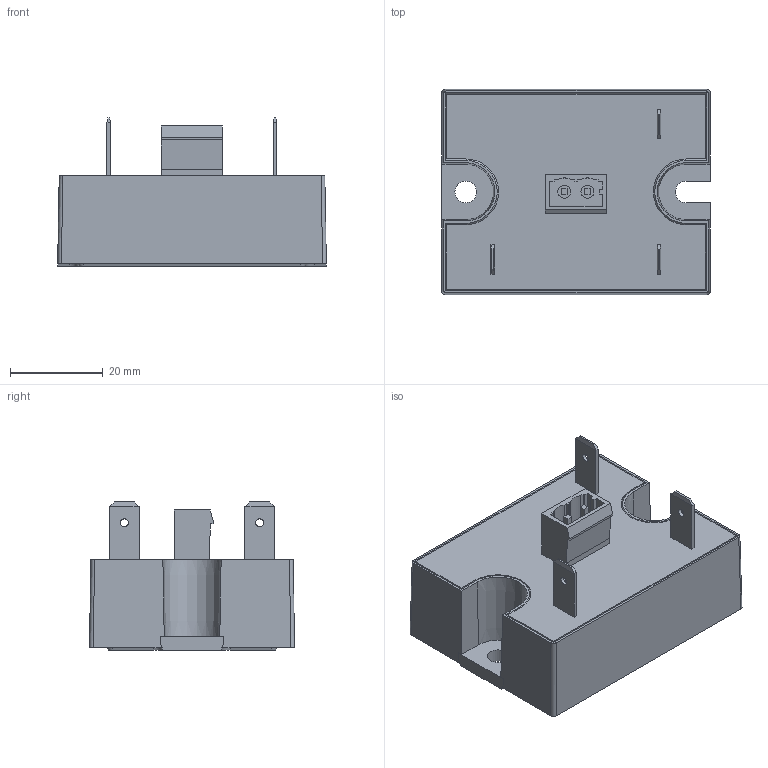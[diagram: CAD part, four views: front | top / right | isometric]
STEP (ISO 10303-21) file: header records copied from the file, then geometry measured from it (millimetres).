
FILE_DESCRIPTION(/* description */ (''),/* implementation_level */ '2;1');
FILE_NAME(/* name */ 'C:\Vault_local\Designs\Stock\3D pour clients\2D3D 600\2D3D 668 A.stp',/* time_stamp */ '2022-05-23T13:50:33+02:00',/* author */ ('fbros'),/* organization */ (''),/* preprocessor_version */ 'ST-DEVELOPER v17',/* originating_system */ 'Autodesk Inventor 2018',/* authorisation */ '');
FILE_SCHEMA (('AUTOMOTIVE_DESIGN { 1 0 10303 214 3 1 1 }'));
Length unit declared in the file: millimetre
Products named in the file (1): 2D3D 668 A
Bounding box: 58.06 x 44.3 x 32 mm (x, y, z)
Volume: 45744.9 mm3; surface area: 11053.8 mm2
Topology: 1 solids, 5 shells, 171 faces, 436 edges, 285 vertices
Faces by surface type: plane 144, cylinder 15, cone 12
Full cylindrical faces by diameter (mm): 1.7 x3, 2.8 x2, 4.7 x1
Entity records: 5326 total; most frequent: CARTESIAN_POINT 893, ORIENTED_EDGE 872, DIRECTION 839, EDGE_CURVE 436, LINE 377, VECTOR 377, VERTEX_POINT 285, AXIS2_PLACEMENT_3D 231
